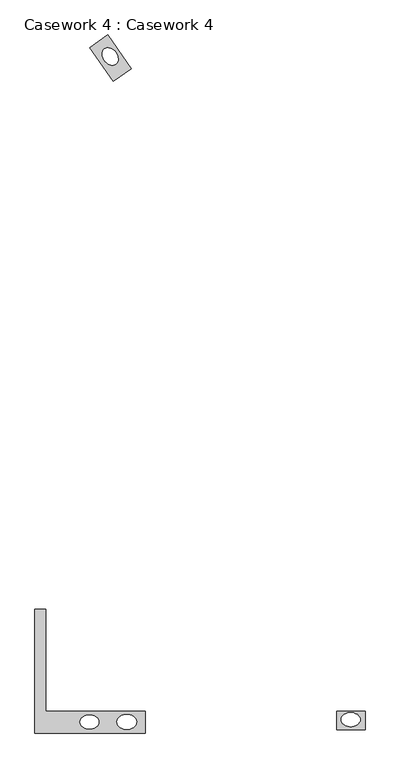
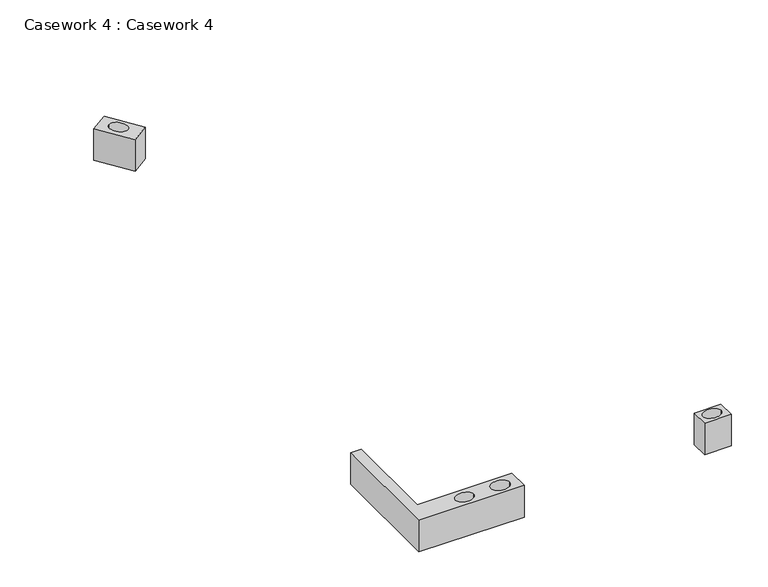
"""IFC4 building model written with IfcOpenShell, lengths in millimetres: furniture geometry, Casework 4 : Casework 4."""

from ifc_helpers import new_model, si_unit, point, frame, origin, place, context, project, spatial, ellipse_curve, trimmed, source, transform, mapped, element, save
from ifc_brep_helpers import plane_surface, extruded_surface, advanced_brep


def casework_4_casework_4_f45020b6(model_context):
    return source(origin(), model_context, "Body", "AdvancedBrep", [
        advanced_brep(
        [(-4311.2135347, 737.8022092, 1050.0), (-4311.2135347, -2442.1977908, 1050.0), (-1471.2135347, -2442.1977908, 1050.0), (-1471.2135347, -1876.9389803, 1050.0), (-4031.2135347, -1876.9389803, 1050.0), (-4031.2135347, 737.8022092, 1050.0), (-3156.2135347, -2156.9389803, 1050.0), (-2666.2135347, -2156.9389803, 1050.0), (-2205.2135448, -2156.9389803, 1050.0), (-1697.2135246, -2156.9389803, 1050.0), (-4311.2135347, 737.8022092, 150.0), (-4031.2135347, 737.8022092, 150.0), (-4031.2135347, -1876.9389803, 150.0), (-1471.2135347, -1876.9389803, 150.0), (-1471.2135347, -2442.1977908, 150.0), (-4311.2135347, -2442.1977908, 150.0), (-3156.2135347, -2156.9389803, 150.0), (-2666.2135347, -2156.9389803, 150.0), (-2205.2135448, -2156.9389803, 150.0), (-1697.2135246, -2156.9389803, 150.0)],
        [
            (0, 1),
            (1, 2),
            (2, 3),
            (3, 4),
            (4, 5),
            (5, 0),
            (6, 7, ellipse_curve(frame((-2911.2135347, -2156.9389803, 1050.0), z_axis=(0.0, 0.0, -1.0), x_axis=(1.0, 0.0, 0.0)), 245.0, 180.0)),
            (7, 6, ellipse_curve(frame((-2911.2135347, -2156.9389803, 1050.0), z_axis=(0.0, 0.0, -1.0), x_axis=(1.0, 0.0, 0.0)), 245.0, 180.0)),
            (8, 9, ellipse_curve(frame((-1951.2135347, -2156.9389803, 1050.0), z_axis=(0.0, 0.0, -1.0), x_axis=(1.0, 0.0, 0.0)), 254.0000101, 192.1916491)),
            (9, 8, ellipse_curve(frame((-1951.2135347, -2156.9389803, 1050.0), z_axis=(0.0, 0.0, -1.0), x_axis=(1.0, 0.0, 0.0)), 254.0000101, 192.1916491)),
            (10, 11),
            (11, 12),
            (12, 13),
            (13, 14),
            (14, 15),
            (15, 10),
            (16, 17, ellipse_curve(frame((-2911.2135347, -2156.9389803, 150.0), z_axis=(0.0, 0.0, 1.0), x_axis=(1.0, 0.0, 0.0)), 245.0, 180.0)),
            (17, 16, ellipse_curve(frame((-2911.2135347, -2156.9389803, 150.0), z_axis=(0.0, 0.0, 1.0), x_axis=(1.0, 0.0, 0.0)), 245.0, 180.0)),
            (18, 19, ellipse_curve(frame((-1951.2135347, -2156.9389803, 150.0), z_axis=(0.0, 0.0, 1.0), x_axis=(1.0, 0.0, 0.0)), 254.0000101, 192.1916491)),
            (19, 18, ellipse_curve(frame((-1951.2135347, -2156.9389803, 150.0), z_axis=(0.0, 0.0, 1.0), x_axis=(1.0, 0.0, 0.0)), 254.0000101, 192.1916491)),
            (0, 10),
            (15, 1),
            (14, 2),
            (13, 3),
            (12, 4),
            (11, 5),
            (6, 16),
            (17, 7),
            (8, 18),
            (19, 9),
        ],
        [
            plane_surface(frame((-4311.2135347, 737.8022092, 1050.0), z_axis=(0.0, 0.0, 1.0), x_axis=(0.0, -1.0, 0.0))),
            plane_surface(frame((-4311.2135347, 737.8022092, 150.0), z_axis=(0.0, 0.0, -1.0), x_axis=(0.0, 1.0, 0.0))),
            plane_surface(frame((-4311.2135347, 737.8022092, 1050.0), z_axis=(-1.0, 0.0, 0.0), x_axis=(0.0, 0.0, -1.0))),
            plane_surface(frame((-4311.2135347, -2442.1977908, 1050.0), z_axis=(0.0, -1.0, 0.0), x_axis=(0.0, 0.0, -1.0))),
            plane_surface(frame((-1471.2135347, -2442.1977908, 1050.0), z_axis=(1.0, 0.0, 0.0), x_axis=(0.0, 0.0, -1.0))),
            plane_surface(frame((-1471.2135347, -1876.9389803, 1050.0), z_axis=(0.0, 1.0, 0.0), x_axis=(0.0, 0.0, -1.0))),
            plane_surface(frame((-4031.2135347, -1876.9389803, 1050.0), z_axis=(1.0, 0.0, 0.0), x_axis=(0.0, 0.0, -1.0))),
            plane_surface(frame((-4031.2135347, 737.8022092, 1050.0), z_axis=(0.0, 1.0, 0.0), x_axis=(0.0, 0.0, -1.0))),
            extruded_surface(trimmed(ellipse_curve(frame((-2911.2135347, -2156.9389803, -900.0), z_axis=(0.0, 0.0, -1.0), x_axis=(1.0, 0.0, 0.0)), 245.0, 180.0), [point((-3156.2135347, -2156.9389803, -900.0))], [point((-2666.2135347, -2156.9389803, -900.0))], True, "CARTESIAN"), (0.0, 0.0, 900.0), 900.0),
            extruded_surface(trimmed(ellipse_curve(frame((-2911.2135347, -2156.9389803, -900.0), z_axis=(0.0, 0.0, -1.0), x_axis=(1.0, 0.0, 0.0)), 245.0, 180.0), [point((-2666.2135347, -2156.9389803, -900.0))], [point((-3156.2135347, -2156.9389803, -900.0))], True, "CARTESIAN"), (0.0, 0.0, 900.0), 900.0),
            extruded_surface(trimmed(ellipse_curve(frame((-1951.2135347, -2156.9389803, -900.0), z_axis=(0.0, 0.0, -1.0), x_axis=(1.0, 0.0, 0.0)), 254.0000101, 192.1916491), [point((-2205.2135448, -2156.9389803, -900.0))], [point((-1697.2135246, -2156.9389803, -900.0))], True, "CARTESIAN"), (0.0, 0.0, 900.0), 900.0),
            extruded_surface(trimmed(ellipse_curve(frame((-1951.2135347, -2156.9389803, -900.0), z_axis=(0.0, 0.0, -1.0), x_axis=(1.0, 0.0, 0.0)), 254.0000101, 192.1916491), [point((-1697.2135246, -2156.9389803, -900.0))], [point((-2205.2135448, -2156.9389803, -900.0))], True, "CARTESIAN"), (0.0, 0.0, 900.0), 900.0),
        ],
        [
            (0, [[1, 2, 3, 4, 5, 6], [7, 8], [9, 10]]),
            (1, [[11, 12, 13, 14, 15, 16], [17, 18], [19, 20]]),
            (2, [[-1, 21, -16, 22]]),
            (3, [[-2, -22, -15, 23]]),
            (4, [[-3, -23, -14, 24]]),
            (5, [[-4, -24, -13, 25]]),
            (6, [[-5, -25, -12, 26]]),
            (7, [[-6, -26, -11, -21]]),
            (8, [[-7, 27, -18, 28]]),
            (9, [[-8, -28, -17, -27]]),
            (10, [[-9, 29, -20, 30]]),
            (11, [[-10, -30, -19, -29]]),
        ],
    ),
        advanced_brep(
        [(4166.6823994, -1876.9389803, 1050.0), (3446.6823994, -1876.9389803, 1050.0), (3446.6823994, -2356.9389803, 1050.0), (4166.6823994, -2356.9389803, 1050.0), (3553.7584713, -2096.9389803, 1050.0), (4043.7584713, -2096.9389803, 1050.0), (4166.6823994, -1876.9389803, 150.0), (4166.6823994, -2356.9389803, 150.0), (3446.6823994, -2356.9389803, 150.0), (3446.6823994, -1876.9389803, 150.0), (3553.7584713, -2096.9389803, 150.0), (4043.7584713, -2096.9389803, 150.0)],
        [
            (0, 1),
            (1, 2),
            (2, 3),
            (3, 0),
            (4, 5, ellipse_curve(frame((3798.7584713, -2096.9389803, 1050.0), z_axis=(0.0, 0.0, -1.0), x_axis=(1.0, 0.0, 0.0)), 245.0, 180.0)),
            (5, 4, ellipse_curve(frame((3798.7584713, -2096.9389803, 1050.0), z_axis=(0.0, 0.0, -1.0), x_axis=(1.0, 0.0, 0.0)), 245.0, 180.0)),
            (6, 7),
            (7, 8),
            (8, 9),
            (9, 6),
            (10, 11, ellipse_curve(frame((3798.7584713, -2096.9389803, 150.0), z_axis=(0.0, 0.0, 1.0), x_axis=(1.0, 0.0, 0.0)), 245.0, 180.0)),
            (11, 10, ellipse_curve(frame((3798.7584713, -2096.9389803, 150.0), z_axis=(0.0, 0.0, 1.0), x_axis=(1.0, 0.0, 0.0)), 245.0, 180.0)),
            (0, 6),
            (9, 1),
            (8, 2),
            (7, 3),
            (4, 10),
            (11, 5),
        ],
        [
            plane_surface(frame((-4311.2135347, 737.8022092, 1050.0), z_axis=(0.0, 0.0, 1.0), x_axis=(0.0, -1.0, 0.0))),
            plane_surface(frame((-4311.2135347, 737.8022092, 150.0), z_axis=(0.0, 0.0, -1.0), x_axis=(0.0, 1.0, 0.0))),
            plane_surface(frame((4166.6823994, -1876.9389803, 1050.0), z_axis=(0.0, 1.0, 0.0), x_axis=(0.0, 0.0, -1.0))),
            plane_surface(frame((3446.6823994, -1876.9389803, 1050.0), z_axis=(-1.0, 0.0, 0.0), x_axis=(0.0, 0.0, -1.0))),
            plane_surface(frame((3446.6823994, -2356.9389803, 1050.0), z_axis=(0.0, -1.0, 0.0), x_axis=(0.0, 0.0, -1.0))),
            plane_surface(frame((4166.6823994, -2356.9389803, 1050.0), z_axis=(1.0, 0.0, 0.0), x_axis=(0.0, 0.0, -1.0))),
            extruded_surface(trimmed(ellipse_curve(frame((3798.7584713, -2096.9389803, -900.0), z_axis=(0.0, 0.0, -1.0), x_axis=(1.0, 0.0, 0.0)), 245.0, 180.0), [point((3553.7584713, -2096.9389803, -900.0))], [point((4043.7584713, -2096.9389803, -900.0))], True, "CARTESIAN"), (0.0, 0.0, 900.0), 900.0),
            extruded_surface(trimmed(ellipse_curve(frame((3798.7584713, -2096.9389803, -900.0), z_axis=(0.0, 0.0, -1.0), x_axis=(1.0, 0.0, 0.0)), 245.0, 180.0), [point((4043.7584713, -2096.9389803, -900.0))], [point((3553.7584713, -2096.9389803, -900.0))], True, "CARTESIAN"), (0.0, 0.0, 900.0), 900.0),
        ],
        [
            (0, [[1, 2, 3, 4], [5, 6]]),
            (1, [[7, 8, 9, 10], [11, 12]]),
            (2, [[-1, 13, -10, 14]]),
            (3, [[-2, -14, -9, 15]]),
            (4, [[-3, -15, -8, 16]]),
            (5, [[-4, -16, -7, -13]]),
            (6, [[-5, 17, -12, 18]]),
            (7, [[-6, -18, -11, -17]]),
        ],
    ),
        advanced_brep(
        [(-1839.9252565, 14614.9576426, 1050.0), (-2442.6500901, 15488.1104962, 1050.0), (-2907.2078348, 15162.8236615, 1050.0), (-2298.6697883, 14293.7412633, 1050.0), (-2526.7965428, 15127.9388292, 1050.0), (-2231.9071815, 14736.6074293, 1050.0), (-1839.9252565, 14614.9576426, 150.0), (-2298.6697883, 14293.7412633, 150.0), (-2907.2078348, 15162.8236615, 150.0), (-2442.6500901, 15488.1104962, 150.0), (-2526.7965428, 15127.9388292, 150.0), (-2231.9071815, 14736.6074293, 150.0)],
        [
            (0, 1),
            (1, 2),
            (2, 3),
            (3, 0),
            (4, 5, ellipse_curve(frame((-2379.3518621, 14932.2731292, 1050.0), z_axis=(0.0, 0.0, -1.0), x_axis=(0.6018150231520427, -0.798635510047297, 0.0)), 245.0, 180.0)),
            (5, 4, ellipse_curve(frame((-2379.3518621, 14932.2731292, 1050.0), z_axis=(0.0, 0.0, -1.0), x_axis=(0.6018150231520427, -0.798635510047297, 0.0)), 245.0, 180.0)),
            (6, 7),
            (7, 8),
            (8, 9),
            (9, 6),
            (10, 11, ellipse_curve(frame((-2379.3518621, 14932.2731292, 150.0), z_axis=(0.0, 0.0, 1.0), x_axis=(0.6018150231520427, -0.798635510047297, 0.0)), 245.0, 180.0)),
            (11, 10, ellipse_curve(frame((-2379.3518621, 14932.2731292, 150.0), z_axis=(0.0, 0.0, 1.0), x_axis=(0.6018150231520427, -0.798635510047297, 0.0)), 245.0, 180.0)),
            (0, 6),
            (9, 1),
            (8, 2),
            (7, 3),
            (4, 10),
            (11, 5),
        ],
        [
            plane_surface(frame((-4311.2135347, 737.8022092, 1050.0), z_axis=(0.0, 0.0, 1.0), x_axis=(0.0, -1.0, 0.0))),
            plane_surface(frame((-4311.2135347, 737.8022092, 150.0), z_axis=(0.0, 0.0, -1.0), x_axis=(0.0, 1.0, 0.0))),
            plane_surface(frame((-1839.9252565, 14614.9576426, 1050.0), z_axis=(0.8229702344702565, 0.5680844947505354, 0.0), x_axis=(0.0, 0.0, -1.0))),
            plane_surface(frame((-2442.6500901, 15488.1104962, 1050.0), z_axis=(-0.5735764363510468, 0.8191520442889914, 0.0), x_axis=(0.0, 0.0, -1.0))),
            plane_surface(frame((-2907.2078348, 15162.8236615, 1050.0), z_axis=(-0.8191520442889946, -0.5735764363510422, 0.0), x_axis=(0.0, 0.0, -1.0))),
            plane_surface(frame((-2298.6697883, 14293.7412633, 1050.0), z_axis=(0.5735764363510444, -0.819152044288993, 0.0), x_axis=(0.0, 0.0, -1.0))),
            extruded_surface(trimmed(ellipse_curve(frame((-2379.3518621, 14932.2731292, -900.0), z_axis=(0.0, 0.0, -1.0), x_axis=(0.6018150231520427, -0.798635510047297, 0.0)), 245.0, 180.0), [point((-2526.7965428, 15127.9388292, -900.0))], [point((-2231.9071815, 14736.6074293, -900.0))], True, "CARTESIAN"), (0.0, 0.0, 900.0), 900.0),
            extruded_surface(trimmed(ellipse_curve(frame((-2379.3518621, 14932.2731292, -900.0), z_axis=(0.0, 0.0, -1.0), x_axis=(0.6018150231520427, -0.798635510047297, 0.0)), 245.0, 180.0), [point((-2231.9071815, 14736.6074293, -900.0))], [point((-2526.7965428, 15127.9388292, -900.0))], True, "CARTESIAN"), (0.0, 0.0, 900.0), 900.0),
        ],
        [
            (0, [[1, 2, 3, 4], [5, 6]]),
            (1, [[7, 8, 9, 10], [11, 12]]),
            (2, [[-1, 13, -10, 14]]),
            (3, [[-2, -14, -9, 15]]),
            (4, [[-3, -15, -8, 16]]),
            (5, [[-4, -16, -7, -13]]),
            (6, [[-5, 17, -12, 18]]),
            (7, [[-6, -18, -11, -17]]),
        ],
    ),
    ])


if __name__ == "__main__":
    model = new_model("IFC4")
    model_context = context("Model", 3, world=origin())
    ifc_project = project(units=[si_unit("LENGTHUNIT", "METRE", prefix="MILLI")], contexts=[model_context])
    site = spatial("IfcSite", under=ifc_project)
    building = spatial("IfcBuilding", under=site)
    placement = place(None, origin())
    casework_4_casework_4_shape = casework_4_casework_4_f45020b6(model_context)
    element("IfcFurniture", 1, ObjectType="Casework 4 : Casework 4", at=placement, inside=building, context=model_context, shape_type="MappedRepresentation", body=[
        mapped(casework_4_casework_4_shape, transform((0.0, 0.0, 0.0), x_axis=(1.0, 0.0, 0.0), y_axis=(0.0, 1.0, 0.0), z_axis=(0.0, 0.0, 1.0))),
    ])
    save(model, "model.ifc")
